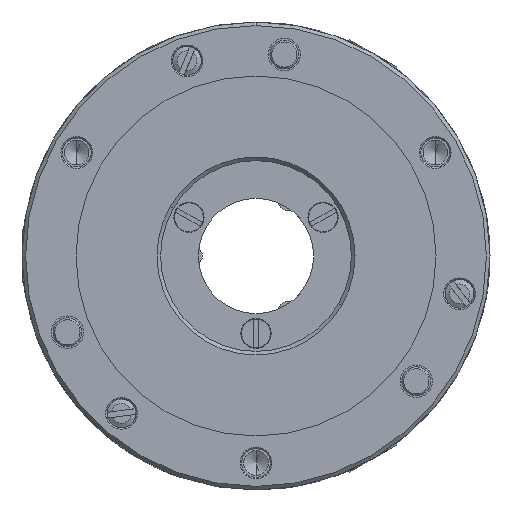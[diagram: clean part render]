
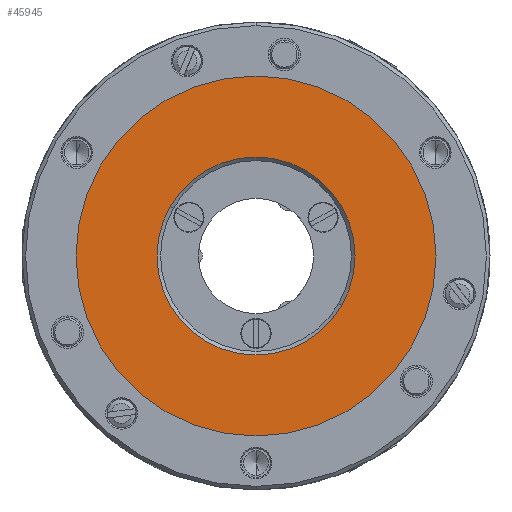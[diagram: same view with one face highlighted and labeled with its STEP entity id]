
A CAD part, left-side view. The second image highlights one B-rep face of the part: STEP entity #45945.
In plain terms, the highlighted planar face has unit normal (-1, 0, 0).
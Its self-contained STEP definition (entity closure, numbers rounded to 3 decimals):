
#1892 = ORIENTED_EDGE ( 'NONE', *, *, #49450, .F. ) ;
#2469 = FACE_BOUND ( 'NONE', #30266, .T. ) ;
#4029 = CARTESIAN_POINT ( 'NONE',  ( -55.5, 0., 0. ) ) ;
#4141 = CARTESIAN_POINT ( 'NONE',  ( -55.5, 0., 50. ) ) ;
#4698 = CARTESIAN_POINT ( 'NONE',  ( -55.5, -23.816, -13.75 ) ) ;
#5112 = DIRECTION ( 'NONE',  ( 1., 0., 0. ) ) ;
#6296 = CIRCLE ( 'NONE', #24643, 50. ) ;
#7539 = CIRCLE ( 'NONE', #43421, 50. ) ;
#8168 = DIRECTION ( 'NONE',  ( 0., -0.866, -0.5 ) ) ;
#8873 = CARTESIAN_POINT ( 'NONE',  ( -55.5, 0., 0. ) ) ;
#11043 = DIRECTION ( 'NONE',  ( 0., -0.866, -0.5 ) ) ;
#15621 = VERTEX_POINT ( 'NONE', #17104 ) ;
#16465 = VERTEX_POINT ( 'NONE', #4141 ) ;
#16781 = CARTESIAN_POINT ( 'NONE',  ( -55.5, 0., -50. ) ) ;
#17104 = CARTESIAN_POINT ( 'NONE',  ( -55.5, 23.816, 13.75 ) ) ;
#18073 = AXIS2_PLACEMENT_3D ( 'NONE', #32978, #48240, #37737 ) ;
#18274 = CARTESIAN_POINT ( 'NONE',  ( -55.5, 0., 0. ) ) ;
#19639 = DIRECTION ( 'NONE',  ( 0., -0.866, -0.5 ) ) ;
#22472 = PLANE ( 'NONE',  #18073 ) ;
#23175 = CARTESIAN_POINT ( 'NONE',  ( -55.5, 0., 0. ) ) ;
#23515 = DIRECTION ( 'NONE',  ( 0., -0.866, -0.5 ) ) ;
#24643 = AXIS2_PLACEMENT_3D ( 'NONE', #23175, #31406, #8168 ) ;
#29340 = VERTEX_POINT ( 'NONE', #16781 ) ;
#29783 = DIRECTION ( 'NONE',  ( 1., 0., 0. ) ) ;
#30266 = EDGE_LOOP ( 'NONE', ( #45596, #37037 ) ) ;
#31406 = DIRECTION ( 'NONE',  ( 1., 0., 0. ) ) ;
#32978 = CARTESIAN_POINT ( 'NONE',  ( -55.5, 25., -43.301 ) ) ;
#34084 = AXIS2_PLACEMENT_3D ( 'NONE', #8873, #5112, #19639 ) ;
#34151 = EDGE_LOOP ( 'NONE', ( #1892, #38007 ) ) ;
#37037 = ORIENTED_EDGE ( 'NONE', *, *, #39035, .T. ) ;
#37415 = CIRCLE ( 'NONE', #44604, 27.5 ) ;
#37737 = DIRECTION ( 'NONE',  ( 0., 0.866, 0.5 ) ) ;
#38007 = ORIENTED_EDGE ( 'NONE', *, *, #39733, .F. ) ;
#39035 = EDGE_CURVE ( 'NONE', #41812, #15621, #49262, .T. ) ;
#39733 = EDGE_CURVE ( 'NONE', #16465, #29340, #7539, .T. ) ;
#41812 = VERTEX_POINT ( 'NONE', #4698 ) ;
#42272 = DIRECTION ( 'NONE',  ( 1., 0., 0. ) ) ;
#43421 = AXIS2_PLACEMENT_3D ( 'NONE', #4029, #42272, #23515 ) ;
#44604 = AXIS2_PLACEMENT_3D ( 'NONE', #18274, #29783, #11043 ) ;
#45596 = ORIENTED_EDGE ( 'NONE', *, *, #49156, .T. ) ;
#45945 = ADVANCED_FACE ( 'NONE', ( #2469, #48978 ), #22472, .T. ) ;
#48240 = DIRECTION ( 'NONE',  ( -1., 0., 0. ) ) ;
#48978 = FACE_OUTER_BOUND ( 'NONE', #34151, .T. ) ;
#49156 = EDGE_CURVE ( 'NONE', #15621, #41812, #37415, .T. ) ;
#49262 = CIRCLE ( 'NONE', #34084, 27.5 ) ;
#49450 = EDGE_CURVE ( 'NONE', #29340, #16465, #6296, .T. ) ;
